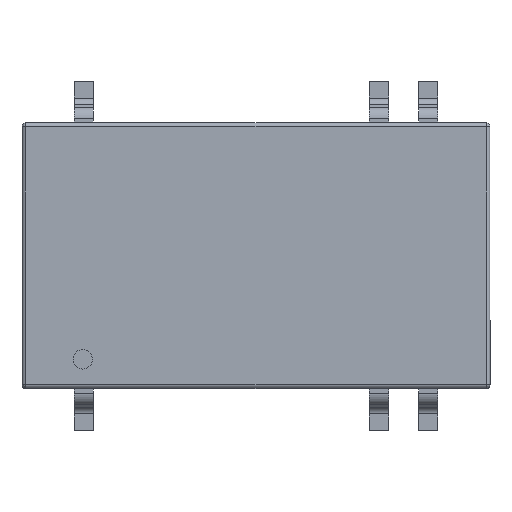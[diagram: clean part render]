
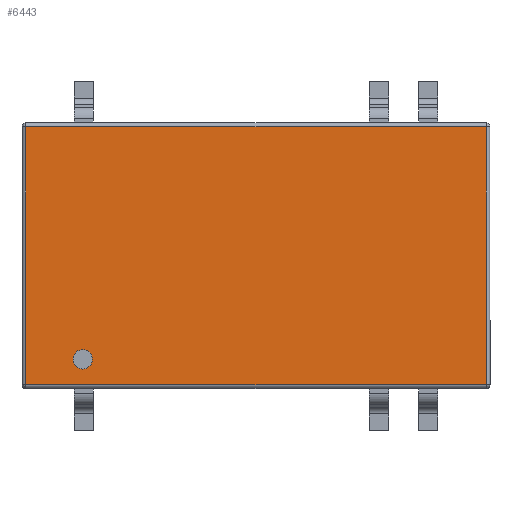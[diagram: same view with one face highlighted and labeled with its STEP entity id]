
A CAD part, top view. The second image highlights one B-rep face of the part: STEP entity #6443.
In plain terms, the highlighted planar face has unit normal (0, 0, 1) as drawn and (0, 0, -1) by its records, which use the part's own axes.
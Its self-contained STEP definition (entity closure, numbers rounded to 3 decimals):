
#113 = CARTESIAN_POINT ( 'NONE',  ( -11.875, 0., 0. ) ) ;
#218 = CARTESIAN_POINT ( 'NONE',  ( 9.44, -5.35, 0. ) ) ;
#330 = LINE ( 'NONE', #113, #1816 ) ;
#353 = DIRECTION ( 'NONE',  ( 0., 1., 0. ) ) ;
#425 = VERTEX_POINT ( 'NONE', #1300 ) ;
#522 = ORIENTED_EDGE ( 'NONE', *, *, #2630, .F. ) ;
#798 = PLANE ( 'NONE',  #1437 ) ;
#927 = ORIENTED_EDGE ( 'NONE', *, *, #1973, .F. ) ;
#945 = LINE ( 'NONE', #3714, #5277 ) ;
#961 = VERTEX_POINT ( 'NONE', #218 ) ;
#1022 = EDGE_CURVE ( 'NONE', #961, #3752, #3994, .T. ) ;
#1300 = CARTESIAN_POINT ( 'NONE',  ( -11.875, -6.65, 0. ) ) ;
#1437 = AXIS2_PLACEMENT_3D ( 'NONE', #3043, #6997, #3611 ) ;
#1798 = LINE ( 'NONE', #2836, #6160 ) ;
#1816 = VECTOR ( 'NONE', #3473, 1000. ) ;
#1837 = EDGE_CURVE ( 'NONE', #3752, #961, #5031, .T. ) ;
#1866 = CARTESIAN_POINT ( 'NONE',  ( 0., 6.65, 0. ) ) ;
#1973 = EDGE_CURVE ( 'NONE', #425, #3154, #1798, .T. ) ;
#2118 = ORIENTED_EDGE ( 'NONE', *, *, #2490, .F. ) ;
#2360 = DIRECTION ( 'NONE',  ( 1., 0., 0. ) ) ;
#2420 = DIRECTION ( 'NONE',  ( -1., 0., 0. ) ) ;
#2490 = EDGE_CURVE ( 'NONE', #3476, #425, #330, .T. ) ;
#2630 = EDGE_CURVE ( 'NONE', #3947, #3476, #3758, .T. ) ;
#2734 = FACE_OUTER_BOUND ( 'NONE', #4365, .T. ) ;
#2778 = EDGE_CURVE ( 'NONE', #3154, #3947, #945, .T. ) ;
#2836 = CARTESIAN_POINT ( 'NONE',  ( 0., -6.65, 0. ) ) ;
#3034 = AXIS2_PLACEMENT_3D ( 'NONE', #5890, #3235, #5842 ) ;
#3043 = CARTESIAN_POINT ( 'NONE',  ( 0., 0., 0. ) ) ;
#3119 = AXIS2_PLACEMENT_3D ( 'NONE', #5534, #6097, #6637 ) ;
#3154 = VERTEX_POINT ( 'NONE', #5240 ) ;
#3235 = DIRECTION ( 'NONE',  ( 0., 0., -1. ) ) ;
#3473 = DIRECTION ( 'NONE',  ( 0., -1., 0. ) ) ;
#3476 = VERTEX_POINT ( 'NONE', #6665 ) ;
#3611 = DIRECTION ( 'NONE',  ( 1., 0., 0. ) ) ;
#3714 = CARTESIAN_POINT ( 'NONE',  ( 11.875, 0., 0. ) ) ;
#3752 = VERTEX_POINT ( 'NONE', #5818 ) ;
#3758 = LINE ( 'NONE', #1866, #6421 ) ;
#3947 = VERTEX_POINT ( 'NONE', #4207 ) ;
#3994 = CIRCLE ( 'NONE', #3119, 0.5 ) ;
#4207 = CARTESIAN_POINT ( 'NONE',  ( 11.875, 6.65, 0. ) ) ;
#4365 = EDGE_LOOP ( 'NONE', ( #2118, #522, #5406, #927 ) ) ;
#4420 = FACE_BOUND ( 'NONE', #5041, .T. ) ;
#4675 = ORIENTED_EDGE ( 'NONE', *, *, #1022, .F. ) ;
#5031 = CIRCLE ( 'NONE', #3034, 0.5 ) ;
#5041 = EDGE_LOOP ( 'NONE', ( #4675, #7252 ) ) ;
#5240 = CARTESIAN_POINT ( 'NONE',  ( 11.875, -6.65, 0. ) ) ;
#5277 = VECTOR ( 'NONE', #353, 1000. ) ;
#5406 = ORIENTED_EDGE ( 'NONE', *, *, #2778, .F. ) ;
#5534 = CARTESIAN_POINT ( 'NONE',  ( 8.94, -5.35, 0. ) ) ;
#5818 = CARTESIAN_POINT ( 'NONE',  ( 8.44, -5.35, 0. ) ) ;
#5842 = DIRECTION ( 'NONE',  ( 1., 0., 0. ) ) ;
#5890 = CARTESIAN_POINT ( 'NONE',  ( 8.94, -5.35, 0. ) ) ;
#6097 = DIRECTION ( 'NONE',  ( 0., 0., -1. ) ) ;
#6160 = VECTOR ( 'NONE', #2360, 1000. ) ;
#6421 = VECTOR ( 'NONE', #2420, 1000. ) ;
#6443 = ADVANCED_FACE ( 'NONE', ( #4420, #2734 ), #798, .F. ) ;
#6637 = DIRECTION ( 'NONE',  ( 1., 0., 0. ) ) ;
#6665 = CARTESIAN_POINT ( 'NONE',  ( -11.875, 6.65, 0. ) ) ;
#6997 = DIRECTION ( 'NONE',  ( 0., 0., 1. ) ) ;
#7252 = ORIENTED_EDGE ( 'NONE', *, *, #1837, .F. ) ;
